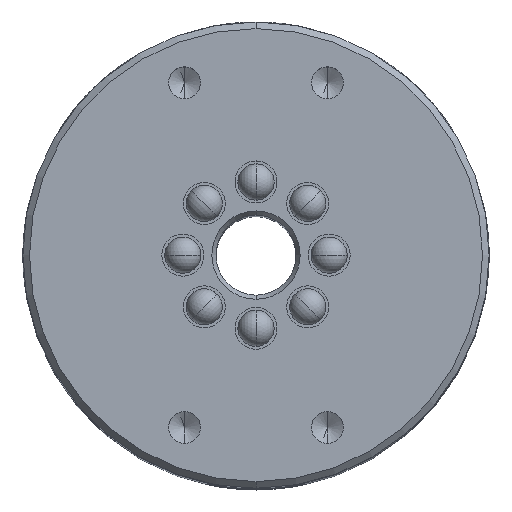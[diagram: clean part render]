
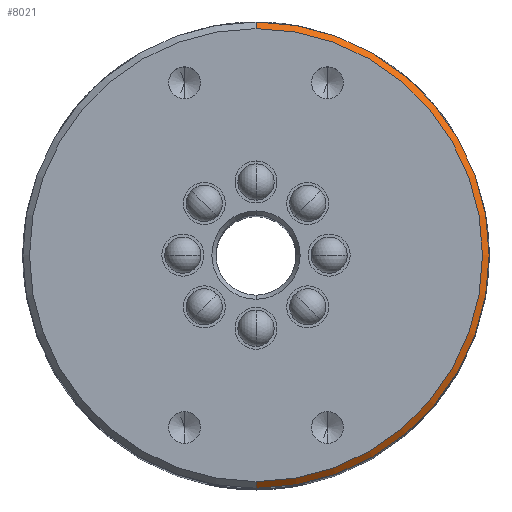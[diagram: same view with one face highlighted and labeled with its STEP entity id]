
A CAD part, top view. The second image highlights one B-rep face of the part: STEP entity #8021.
In plain terms, the highlighted conical face has half-angle 45 degrees and reference radius 27.775 mm.
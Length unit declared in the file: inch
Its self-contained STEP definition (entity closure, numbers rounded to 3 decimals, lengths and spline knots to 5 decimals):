
#2866 = EDGE_CURVE ( 'NONE', #7129, #7119, #11595, .T. ) ;
#2868 = EDGE_CURVE ( 'NONE', #7107, #7110, #11847, .T. ) ;
#2969 = EDGE_CURVE ( 'NONE', #7107, #7119, #6310, .T. ) ;
#2978 = EDGE_CURVE ( 'NONE', #7110, #7129, #6388, .T. ) ;
#4440 = EDGE_LOOP ( 'NONE', ( #12203, #12206, #12205, #12204 ) ) ;
#4846 = DIRECTION ( 'NONE',  ( 0., 0., -1. ) ) ;
#4847 = CARTESIAN_POINT ( 'NONE',  ( 0., 4.715, 0. ) ) ;
#4848 = FACE_OUTER_BOUND ( 'NONE', #4440, .T. ) ;
#4849 = DIRECTION ( 'NONE',  ( 0., -1., 0. ) ) ;
#5880 = CARTESIAN_POINT ( 'NONE',  ( 0., 4.715, 0. ) ) ;
#5881 = DIRECTION ( 'NONE',  ( 0., -1., 0. ) ) ;
#5882 = DIRECTION ( 'NONE',  ( 0., 0., 1. ) ) ;
#5885 = CARTESIAN_POINT ( 'NONE',  ( 0., 4.746, 0. ) ) ;
#5886 = DIRECTION ( 'NONE',  ( 0., 1., 0. ) ) ;
#5887 = DIRECTION ( 'NONE',  ( 0., 0., 1. ) ) ;
#6305 = CARTESIAN_POINT ( 'NONE',  ( 0., 4.715, 1.0935 ) ) ;
#6310 = LINE ( 'NONE', #6305, #11958 ) ;
#6315 = DIRECTION ( 'NONE',  ( 0., -0.707, 0.707 ) ) ;
#6330 = CARTESIAN_POINT ( 'NONE',  ( 0., 4.715, -1.0935 ) ) ;
#6388 = LINE ( 'NONE', #6330, #11973 ) ;
#6396 = DIRECTION ( 'NONE',  ( 0., -0.707, -0.707 ) ) ;
#7107 = VERTEX_POINT ( 'NONE', #13228 ) ;
#7110 = VERTEX_POINT ( 'NONE', #13231 ) ;
#7119 = VERTEX_POINT ( 'NONE', #13238 ) ;
#7129 = VERTEX_POINT ( 'NONE', #13245 ) ;
#8021 = ADVANCED_FACE ( 'NONE', ( #4848 ), #14354, .T. ) ;
#11595 = CIRCLE ( 'NONE', #11845, 1.0935 ) ;
#11597 = AXIS2_PLACEMENT_3D ( 'NONE', #5885, #5886, #5887 ) ;
#11845 = AXIS2_PLACEMENT_3D ( 'NONE', #5880, #5881, #5882 ) ;
#11847 = CIRCLE ( 'NONE', #11597, 1.0625 ) ;
#11958 = VECTOR ( 'NONE', #6315, 39.37008 ) ;
#11973 = VECTOR ( 'NONE', #6396, 39.37008 ) ;
#12203 = ORIENTED_EDGE ( 'NONE', *, *, #2868, .F. ) ;
#12204 = ORIENTED_EDGE ( 'NONE', *, *, #2978, .F. ) ;
#12205 = ORIENTED_EDGE ( 'NONE', *, *, #2866, .F. ) ;
#12206 = ORIENTED_EDGE ( 'NONE', *, *, #2969, .T. ) ;
#13228 = CARTESIAN_POINT ( 'NONE',  ( 0., 4.746, 1.0625 ) ) ;
#13231 = CARTESIAN_POINT ( 'NONE',  ( 0., 4.746, -1.0625 ) ) ;
#13238 = CARTESIAN_POINT ( 'NONE',  ( 0., 4.715, 1.0935 ) ) ;
#13245 = CARTESIAN_POINT ( 'NONE',  ( 0., 4.715, -1.0935 ) ) ;
#14354 = CONICAL_SURFACE ( 'NONE', #14355, 1.0935, 0.785 ) ;
#14355 = AXIS2_PLACEMENT_3D ( 'NONE', #4847, #4849, #4846 ) ;
